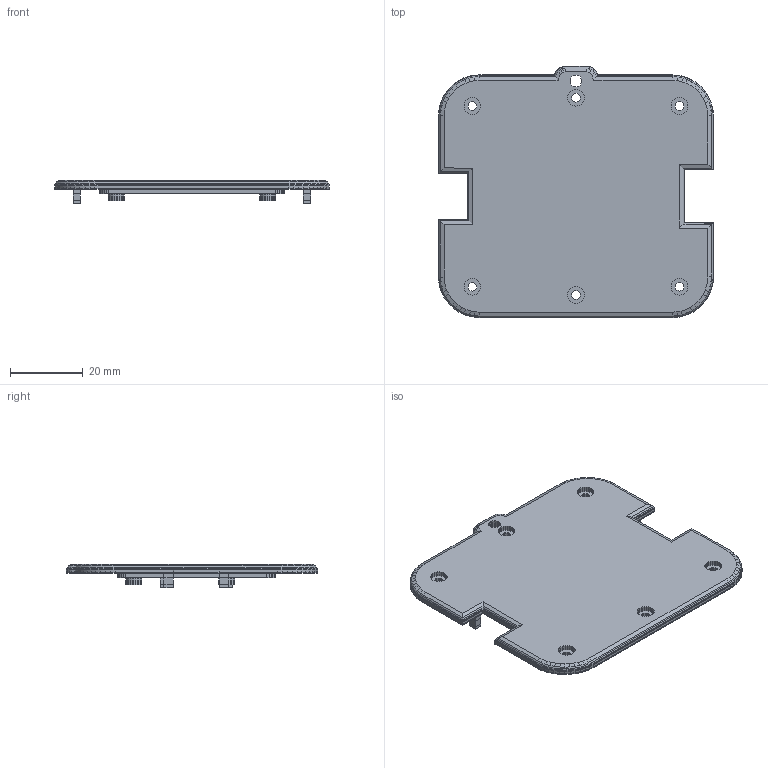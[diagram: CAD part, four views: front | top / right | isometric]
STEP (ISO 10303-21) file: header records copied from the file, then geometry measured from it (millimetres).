
FILE_DESCRIPTION(('AVO Performance Horse - montaje de la cincha (B-rep poliedrico)'),'2;1');
FILE_NAME('AVO_CINCHA_R6_9_tapa_PETG_opaco','2026-11-15T12:00:00',('AVO Performance Horse'),('AVO Performance Horse'),'avo_cad.py','avo_cad.py (numpy)','');
FILE_SCHEMA(('AUTOMOTIVE_DESIGN { 1 0 10303 214 1 1 1 1 }'));
Length unit declared in the file: millimetre
Products named in the file (1): AVO_CINCHA_R6_9_tapa_PETG_opaco
Bounding box: 75.5 x 69 x 6.42 mm (x, y, z)
Volume: 11824.4 mm3; surface area: 11002.7 mm2
Topology: 1 solids, 1 shells, 2803 faces, 6204 edges, 3424 vertices
Faces by surface type: plane 2803
Entity records: 53640 total; most frequent: ORIENTED_EDGE 12408, VECTOR 6204, LINE 6204, EDGE_CURVE 6204, CARTESIAN_POINT 3425, VERTEX_POINT 3424, EDGE_LOOP 2838, AXIS2_PLACEMENT_3D 2804
